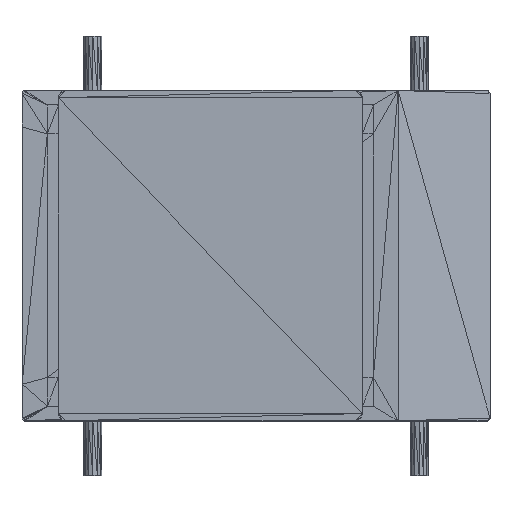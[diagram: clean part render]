
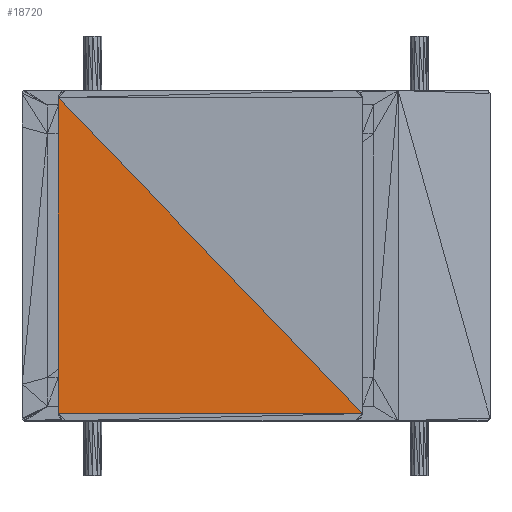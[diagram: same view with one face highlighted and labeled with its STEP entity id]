
A CAD part, top view. The second image highlights one B-rep face of the part: STEP entity #18720.
In plain terms, the highlighted planar face has unit normal (0, 0, 1).
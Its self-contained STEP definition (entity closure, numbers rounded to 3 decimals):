
#16736 = VERTEX_POINT('',#16737);
#16737 = CARTESIAN_POINT('',(-273.,218.,368.));
#16944 = VERTEX_POINT('',#16945);
#16945 = CARTESIAN_POINT('',(147.,-218.,368.));
#17017 = PLANE('',#17018);
#17018 = AXIS2_PLACEMENT_3D('',#17019,#17020,#17021);
#17019 = CARTESIAN_POINT('',(-263.,-228.,368.));
#17020 = DIRECTION('',(-0.,0.,1.));
#17021 = DIRECTION('',(1.,0.,0.));
#17751 = PLANE('',#17752);
#17752 = AXIS2_PLACEMENT_3D('',#17753,#17754,#17755);
#17753 = CARTESIAN_POINT('',(-273.,218.,368.));
#17754 = DIRECTION('',(-1.,-0.,0.));
#17755 = DIRECTION('',(-0.,0.,-1.));
#17768 = VERTEX_POINT('',#17769);
#17769 = CARTESIAN_POINT('',(-273.,-218.,368.));
#17795 = EDGE_CURVE('',#17768,#16736,#17796,.T.);
#17796 = SURFACE_CURVE('',#17797,(#17801,#17808),.PCURVE_S1.);
#17797 = LINE('',#17798,#17799);
#17798 = CARTESIAN_POINT('',(-273.,-218.,368.));
#17799 = VECTOR('',#17800,1.);
#17800 = DIRECTION('',(0.,1.,0.));
#17801 = PCURVE('',#17751,#17802);
#17802 = DEFINITIONAL_REPRESENTATION('',(#17803),#17807);
#17803 = LINE('',#17804,#17805);
#17804 = CARTESIAN_POINT('',(-0.,436.));
#17805 = VECTOR('',#17806,1.);
#17806 = DIRECTION('',(0.,-1.));
#17807 = ( GEOMETRIC_REPRESENTATION_CONTEXT(2) 
PARAMETRIC_REPRESENTATION_CONTEXT() REPRESENTATION_CONTEXT('2D SPACE',''
  ) );
#17808 = PCURVE('',#17809,#17814);
#17809 = PLANE('',#17810);
#17810 = AXIS2_PLACEMENT_3D('',#17811,#17812,#17813);
#17811 = CARTESIAN_POINT('',(-273.,-218.,368.));
#17812 = DIRECTION('',(0.,-0.,1.));
#17813 = DIRECTION('',(1.,0.,0.));
#17814 = DEFINITIONAL_REPRESENTATION('',(#17815),#17819);
#17815 = LINE('',#17816,#17817);
#17816 = CARTESIAN_POINT('',(0.,0.));
#17817 = VECTOR('',#17818,1.);
#17818 = DIRECTION('',(0.,1.));
#17819 = ( GEOMETRIC_REPRESENTATION_CONTEXT(2) 
PARAMETRIC_REPRESENTATION_CONTEXT() REPRESENTATION_CONTEXT('2D SPACE',''
  ) );
#18427 = PLANE('',#18428);
#18428 = AXIS2_PLACEMENT_3D('',#18429,#18430,#18431);
#18429 = CARTESIAN_POINT('',(-273.,218.,368.));
#18430 = DIRECTION('',(0.,0.,1.));
#18431 = DIRECTION('',(1.,0.,-0.));
#18720 = ADVANCED_FACE('',(#18721),#17809,.T.);
#18721 = FACE_BOUND('',#18722,.T.);
#18722 = EDGE_LOOP('',(#18723,#18744,#18765));
#18723 = ORIENTED_EDGE('',*,*,#18724,.T.);
#18724 = EDGE_CURVE('',#17768,#16944,#18725,.T.);
#18725 = SURFACE_CURVE('',#18726,(#18730,#18737),.PCURVE_S1.);
#18726 = LINE('',#18727,#18728);
#18727 = CARTESIAN_POINT('',(-273.,-218.,368.));
#18728 = VECTOR('',#18729,1.);
#18729 = DIRECTION('',(1.,0.,0.));
#18730 = PCURVE('',#17809,#18731);
#18731 = DEFINITIONAL_REPRESENTATION('',(#18732),#18736);
#18732 = LINE('',#18733,#18734);
#18733 = CARTESIAN_POINT('',(0.,0.));
#18734 = VECTOR('',#18735,1.);
#18735 = DIRECTION('',(1.,0.));
#18736 = ( GEOMETRIC_REPRESENTATION_CONTEXT(2) 
PARAMETRIC_REPRESENTATION_CONTEXT() REPRESENTATION_CONTEXT('2D SPACE',''
  ) );
#18737 = PCURVE('',#17017,#18738);
#18738 = DEFINITIONAL_REPRESENTATION('',(#18739),#18743);
#18739 = LINE('',#18740,#18741);
#18740 = CARTESIAN_POINT('',(-10.,10.));
#18741 = VECTOR('',#18742,1.);
#18742 = DIRECTION('',(1.,0.));
#18743 = ( GEOMETRIC_REPRESENTATION_CONTEXT(2) 
PARAMETRIC_REPRESENTATION_CONTEXT() REPRESENTATION_CONTEXT('2D SPACE',''
  ) );
#18744 = ORIENTED_EDGE('',*,*,#18745,.T.);
#18745 = EDGE_CURVE('',#16944,#16736,#18746,.T.);
#18746 = SURFACE_CURVE('',#18747,(#18751,#18758),.PCURVE_S1.);
#18747 = LINE('',#18748,#18749);
#18748 = CARTESIAN_POINT('',(147.,-218.,368.));
#18749 = VECTOR('',#18750,1.);
#18750 = DIRECTION('',(-0.694,0.72,0.));
#18751 = PCURVE('',#17809,#18752);
#18752 = DEFINITIONAL_REPRESENTATION('',(#18753),#18757);
#18753 = LINE('',#18754,#18755);
#18754 = CARTESIAN_POINT('',(420.,0.));
#18755 = VECTOR('',#18756,1.);
#18756 = DIRECTION('',(-0.694,0.72));
#18757 = ( GEOMETRIC_REPRESENTATION_CONTEXT(2) 
PARAMETRIC_REPRESENTATION_CONTEXT() REPRESENTATION_CONTEXT('2D SPACE',''
  ) );
#18758 = PCURVE('',#18427,#18759);
#18759 = DEFINITIONAL_REPRESENTATION('',(#18760),#18764);
#18760 = LINE('',#18761,#18762);
#18761 = CARTESIAN_POINT('',(420.,-436.));
#18762 = VECTOR('',#18763,1.);
#18763 = DIRECTION('',(-0.694,0.72));
#18764 = ( GEOMETRIC_REPRESENTATION_CONTEXT(2) 
PARAMETRIC_REPRESENTATION_CONTEXT() REPRESENTATION_CONTEXT('2D SPACE',''
  ) );
#18765 = ORIENTED_EDGE('',*,*,#17795,.F.);
